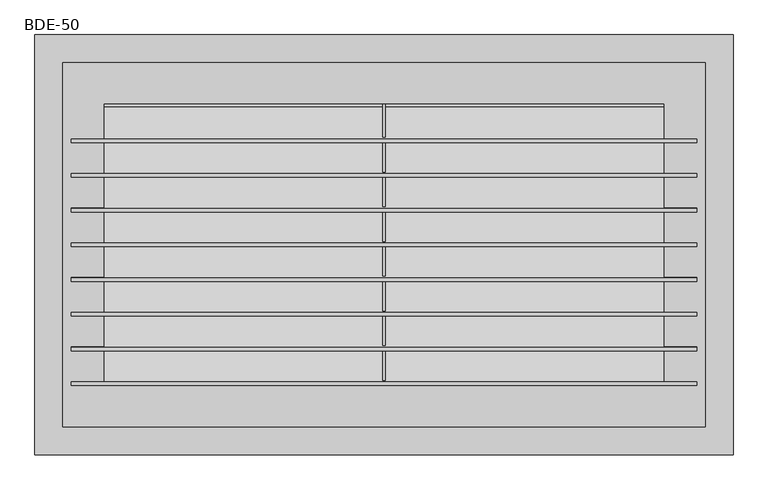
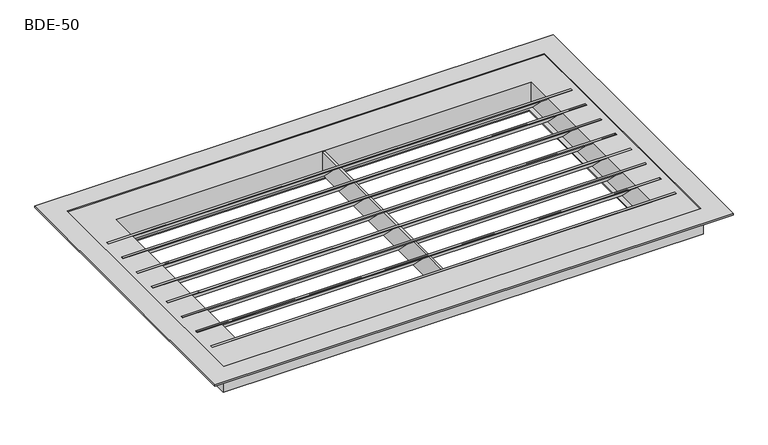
"""IFC4 building model written with IfcOpenShell, lengths in millimetres: air terminal geometry, NLRS_57_AIR_FB_Stalen-roosterdeuren BDE_SMA : BDE-50."""

import ifcopenshell
import ifcopenshell.guid

model = None  # the IFC model being written
_history = None  # IfcOwnerHistory: only IFC2X3 demands one
_inside = {}  # id of a spatial element -> (the spatial element, [elements in it])
_under = {}  # id of a project, library or spatial element -> (it, [spatial elements below it])
_declared = {}  # id of a project -> (the project, [libraries it declares])
_typed = {}  # id of a type object -> (the type object, [elements of that type])
_made_of = {}  # id of a material, layer set ... -> (it, [elements and type objects made of it])


def new_model(schema):
    """Start an empty IFC model of exactly this schema.

    Asked for "IFC4X3", IfcOpenShell would pick the latest addendum, in which some entities
    have other attributes; the version numbers below select the first issue.
    IFC2X3 requires an IfcOwnerHistory on every rooted entity: one is made here for all.
    """
    global model, _history
    if schema == "IFC4X3":
        model = ifcopenshell.file(schema_version=(4, 3, 0, 0))
    else:
        model = ifcopenshell.file(schema=schema)
    _inside.clear()
    _under.clear()
    _declared.clear()
    _typed.clear()
    _made_of.clear()
    _history = None
    if model.schema == "IFC2X3":
        org = make("IfcOrganization", Name="unknown")
        user = make(
            "IfcPersonAndOrganization",
            ThePerson=make("IfcPerson", FamilyName="unknown"),
            TheOrganization=org,
        )
        app = make(
            "IfcApplication",
            ApplicationDeveloper=org,
            Version="unknown",
            ApplicationFullName="unknown",
            ApplicationIdentifier="unknown",
        )
        _history = make(
            "IfcOwnerHistory",
            OwningUser=user,
            OwningApplication=app,
            ChangeAction="ADDED",
            CreationDate=0,
        )
    return model


def make(cls, **values):
    """One entity of the class cls with the attributes given. An attribute that is None is left unset."""
    return model.create_entity(
        cls, **{name: value for name, value in values.items() if value is not None}
    )


def rooted(cls, **values):
    """An entity with a GlobalId (a new one), such as an element, a storey or a relation."""
    return make(cls, GlobalId=ifcopenshell.guid.new(), OwnerHistory=_history, **values)


def si_unit(unit_type, name, prefix=None):
    """IfcSIUnit, for example si_unit("LENGTHUNIT", "METRE", prefix="MILLI")."""
    return make("IfcSIUnit", UnitType=unit_type, Prefix=prefix, Name=name)


def assignment(units):
    """IfcUnitAssignment: the units of a project."""
    return None if units is None else make("IfcUnitAssignment", Units=units)


def point(xyz):
    """IfcCartesianPoint."""
    return None if xyz is None else make("IfcCartesianPoint", Coordinates=xyz)


def direction(xyz):
    """IfcDirection."""
    return None if xyz is None else make("IfcDirection", DirectionRatios=xyz)


def frame(location, z_axis=None, x_axis=None):
    """IfcAxis2Placement3D, a coordinate frame: its origin and axes. An axis left out is left unset."""
    return make(
        "IfcAxis2Placement3D",
        Location=point(location),
        Axis=direction(z_axis),
        RefDirection=direction(x_axis),
    )


def origin():
    """The frame at (0, 0, 0) with its axes left unset."""
    return frame((0.0, 0.0, 0.0))


def place(relative_to, where):
    """IfcLocalPlacement: puts the frame where relative to a parent placement (None: the world)."""
    return make(
        "IfcLocalPlacement", PlacementRelTo=relative_to, RelativePlacement=where
    )


def context(
    kind, dimensions, precision=None, world=None, true_north=None, identifier=None
):
    """IfcGeometricRepresentationContext, for example the 3D "Model" context."""
    return make(
        "IfcGeometricRepresentationContext",
        ContextIdentifier=identifier,
        ContextType=kind,
        CoordinateSpaceDimension=dimensions,
        Precision=precision,
        WorldCoordinateSystem=world,
        TrueNorth=true_north,
    )


def project(units=None, contexts=None):
    """IfcProject with its units and contexts."""
    return rooted(
        "IfcProject",
        Name="project",
        RepresentationContexts=contexts,
        UnitsInContext=assignment(units),
    )


def spatial(cls, under=None, at=None, **own):
    """A site, building, storey or space (cls), placed at a placement, below another one or the project."""
    s = rooted(cls, ObjectPlacement=at, **own)
    if under is not None:
        _under.setdefault(under.id(), (under, []))[1].append(s)
    return s


def polyline(points):
    """IfcPolyline through the points."""
    return make("IfcPolyline", Points=[point(p) for p in points])


def outline(outer, holes=None, kind="AREA"):
    """IfcArbitraryClosedProfileDef: a profile drawn as a closed curve; with holes, ...WithVoids."""
    if holes is None:
        return make("IfcArbitraryClosedProfileDef", ProfileType=kind, OuterCurve=outer)
    return make(
        "IfcArbitraryProfileDefWithVoids",
        ProfileType=kind,
        OuterCurve=outer,
        InnerCurves=holes,
    )


def extrude(swept, where, along, depth):
    """IfcExtrudedAreaSolid: the profile swept, set in the frame where, extruded along a direction by depth."""
    return make(
        "IfcExtrudedAreaSolid",
        SweptArea=swept,
        Position=where,
        ExtrudedDirection=direction(along),
        Depth=depth,
    )


def faces_of(points, faces, orient=None, outer=None):
    """IfcFace entities. A face is a list of loops; a loop is a list of indices into points, from 0.

    orient and outer hold one flag for each loop. By default every Orientation is true, the
    first loop of a face is its IfcFaceOuterBound and the others are IfcFaceBound.
    """
    made = []
    for i, loops in enumerate(faces):
        bounds = []
        for j, loop in enumerate(loops):
            is_outer = j == 0 if outer is None else outer[i][j]
            bounds.append(
                make(
                    "IfcFaceOuterBound" if is_outer else "IfcFaceBound",
                    Bound=make("IfcPolyLoop", Polygon=[points[k] for k in loop]),
                    Orientation=True if orient is None else orient[i][j],
                )
            )
        made.append(make("IfcFace", Bounds=bounds))
    return made


def faceted_brep(points, faces, orient=None, outer=None, voids=None):
    """IfcFacetedBrep: a solid bounded by flat faces; with voids (closed shells), ...WithVoids."""
    shared = [point(p) for p in points]
    hull = make("IfcClosedShell", CfsFaces=faces_of(shared, faces, orient, outer))
    if voids is None:
        return make("IfcFacetedBrep", Outer=hull)
    return make(
        "IfcFacetedBrepWithVoids",
        Outer=hull,
        Voids=[
            make(cls, CfsFaces=faces_of(shared, fs, o, b)) for cls, fs, o, b in voids
        ],
    )


def shape(context_of_items, identifier, shape_type, items):
    """IfcShapeRepresentation: the items that make up one representation, for example the "Body"."""
    return make(
        "IfcShapeRepresentation",
        ContextOfItems=context_of_items,
        RepresentationIdentifier=identifier,
        RepresentationType=shape_type,
        Items=items,
    )


def source(mapping_origin, context_of_items, identifier, shape_type, items):
    """IfcRepresentationMap: a shape defined once, which mapped items show again and again."""
    return make(
        "IfcRepresentationMap",
        MappingOrigin=mapping_origin,
        MappedRepresentation=shape(context_of_items, identifier, shape_type, items),
    )


def transform(
    local_origin,
    x_axis=None,
    y_axis=None,
    z_axis=None,
    scale=None,
    scale2=None,
    scale3=None,
    uniform=True,
):
    """IfcCartesianTransformationOperator3D, or its non-uniform kind. x_axis, y_axis, z_axis: its Axis1, 2, 3."""
    if uniform:
        return make(
            "IfcCartesianTransformationOperator3D",
            Axis1=direction(x_axis),
            Axis2=direction(y_axis),
            LocalOrigin=point(local_origin),
            Scale=scale,
            Axis3=direction(z_axis),
        )
    return make(
        "IfcCartesianTransformationOperator3DnonUniform",
        Axis1=direction(x_axis),
        Axis2=direction(y_axis),
        LocalOrigin=point(local_origin),
        Scale=scale,
        Axis3=direction(z_axis),
        Scale2=scale2,
        Scale3=scale3,
    )


def mapped(mapping_source, mapping_target):
    """IfcMappedItem: shows the shape of a source again, moved by a transform."""
    return make(
        "IfcMappedItem", MappingSource=mapping_source, MappingTarget=mapping_target
    )


def made_of(thing, what):
    """Note that an element or type object is made of a material, layer set ...; save() writes the relation."""
    if what is not None:
        _made_of.setdefault(what.id(), (what, []))[1].append(thing)
    return thing


def element(
    cls,
    number,
    at=None,
    inside=None,
    cuts=None,
    type_object=None,
    material=None,
    context=None,
    identifier="Body",
    shape_type=None,
    held_by="IfcProductDefinitionShape",
    body=None,
    shapes=None,
    **own,
):
    """One element of the class cls, such as IfcWall. Its Tag is "e" and its number.

    at: its placement. inside: the storey or other place that contains it. cuts: it is an
    opening in that element (IfcRelVoidsElement). A single representation is given by context,
    identifier, shape_type and body (its items); several are given by shapes. held_by: the class
    of the entity that holds the representations. save() writes the other relations.
    """
    e = rooted(cls, Tag="e%d" % number, ObjectPlacement=at, **own)
    if body is not None:
        shapes = [shape(context, identifier, shape_type, body)]
    if shapes is not None:
        e.Representation = make(held_by, Representations=shapes)
    if inside is not None:
        _inside.setdefault(inside.id(), (inside, []))[1].append(e)
    if cuts is not None:
        rooted(
            "IfcRelVoidsElement", RelatingBuildingElement=cuts, RelatedOpeningElement=e
        )
    if type_object is not None:
        _typed.setdefault(type_object.id(), (type_object, []))[1].append(e)
    return made_of(e, material)


def aggregate(whole, parts):
    """IfcRelAggregates: a whole, such as a stair, and the parts it consists of."""
    return rooted("IfcRelAggregates", RelatingObject=whole, RelatedObjects=parts)


def save(model, path):
    """Write the relations noted so far, then the file.

    IfcRelAggregates (storeys below a building ...), IfcRelContainedInSpatialStructure (elements
    in a storey), IfcRelDefinesByType, IfcRelAssociatesMaterial and IfcRelDeclares: one each for
    every whole, place, type object, material and project.
    """
    for whole, parts in _under.values():
        aggregate(whole, parts)
    for where, things in _inside.values():
        rooted(
            "IfcRelContainedInSpatialStructure",
            RelatedElements=things,
            RelatingStructure=where,
        )
    for kind, things in _typed.values():
        rooted("IfcRelDefinesByType", RelatedObjects=things, RelatingType=kind)
    for what, things in _made_of.values():
        rooted("IfcRelAssociatesMaterial", RelatedObjects=things, RelatingMaterial=what)
    for by, libraries in _declared.values():
        rooted("IfcRelDeclares", RelatingContext=by, RelatedDefinitions=libraries)
    model.write(path)


def bde_50_40d87701(model_context):
    return source(origin(), model_context, "Body", "SolidModel", [
        extrude(outline(polyline([(147.5, 1.5428063), (152.5, 1.5428063), (199.0257471, -44.9829408), (207.500244, -44.9829408), (207.500244, -46.4571937), (197.5, -46.4571937), (150.999511, 0.0432953), (147.5, 0.0432953), (147.5, 1.5428063)])), frame((-450.0, 0.0, 0.0), z_axis=(1.0, 0.0, 0.0), x_axis=(0.0, 1.0, 0.0)), (0.0, 0.0, 1.0), 900.0),
        extrude(outline(polyline([(97.5, 1.5428063), (102.5, 1.5428063), (149.0257471, -44.9829408), (157.500244, -44.9829408), (157.500244, -46.4571937), (147.5, -46.4571937), (100.999511, 0.0432953), (97.5, 0.0432953), (97.5, 1.5428063)])), frame((-450.0, 0.0, 0.0), z_axis=(1.0, 0.0, 0.0), x_axis=(0.0, 1.0, 0.0)), (0.0, 0.0, 1.0), 900.0),
        extrude(outline(polyline([(47.5, 1.5428063), (52.5, 1.5428063), (99.0257471, -44.9829408), (107.500244, -44.9829408), (107.500244, -46.4571937), (97.5, -46.4571937), (50.999511, 0.0432953), (47.5, 0.0432953), (47.5, 1.5428063)])), frame((-450.0, 0.0, 0.0), z_axis=(1.0, 0.0, 0.0), x_axis=(0.0, 1.0, 0.0)), (0.0, 0.0, 1.0), 900.0),
        extrude(outline(polyline([(-2.5, 1.5428063), (2.5, 1.5428063), (49.0257471, -44.9829408), (57.500244, -44.9829408), (57.500244, -46.4571937), (47.5, -46.4571937), (0.999511, 0.0432953), (-2.5, 0.0432953), (-2.5, 1.5428063)])), frame((-450.0, 0.0, 0.0), z_axis=(1.0, 0.0, 0.0), x_axis=(0.0, 1.0, 0.0)), (0.0, 0.0, 1.0), 900.0),
        extrude(outline(polyline([(-52.5, 1.5428063), (-47.5, 1.5428063), (-0.9742529, -44.9829408), (7.500244, -44.9829408), (7.500244, -46.4571937), (-2.5, -46.4571937), (-49.000489, 0.0432953), (-52.5, 0.0432953), (-52.5, 1.5428063)])), frame((-450.0, 0.0, 0.0), z_axis=(1.0, 0.0, 0.0), x_axis=(0.0, 1.0, 0.0)), (0.0, 0.0, 1.0), 900.0),
        extrude(outline(polyline([(-102.5, 1.5428063), (-97.5, 1.5428063), (-50.9742529, -44.9829408), (-42.499756, -44.9829408), (-42.499756, -46.4571937), (-52.5, -46.4571937), (-99.000489, 0.0432953), (-102.5, 0.0432953), (-102.5, 1.5428063)])), frame((-450.0, 0.0, 0.0), z_axis=(1.0, 0.0, 0.0), x_axis=(0.0, 1.0, 0.0)), (0.0, 0.0, 1.0), 900.0),
        extrude(outline(polyline([(-152.5, 1.5428063), (-147.5, 1.5428063), (-100.9742529, -44.9829408), (-92.499756, -44.9829408), (-92.499756, -46.4571937), (-102.5, -46.4571937), (-149.000489, 0.0432953), (-152.5, 0.0432953), (-152.5, 1.5428063)])), frame((-450.0, 0.0, 0.0), z_axis=(1.0, 0.0, 0.0), x_axis=(0.0, 1.0, 0.0)), (0.0, 0.0, 1.0), 900.0),
        extrude(outline(polyline([(-202.5, 1.5428063), (-197.5, 1.5428063), (-150.9742529, -44.9829408), (-142.499756, -44.9829408), (-142.499756, -46.4571937), (-152.5, -46.4571937), (-199.000489, 0.0432953), (-202.5, 0.0432953), (-202.5, 1.5428063)])), frame((-450.0, 0.0, 0.0), z_axis=(1.0, 0.0, 0.0), x_axis=(0.0, 1.0, 0.0)), (0.0, 0.0, 1.0), 900.0),
        extrude(outline(polyline([(2.0, 202.5), (2.0, -202.5), (-2.0, -202.5), (-2.0, 202.5), (2.0, 202.5)])), frame((0.0, 0.0, -48.0), z_axis=(0.0, 0.0, 1.0), x_axis=(1.0, 0.0, 0.0)), (0.0, 0.0, 1.0), 48.0),
        faceted_brep([(502.5, 302.5, 0.0), (502.5, 302.5, 3.0), (502.5, -302.5, 3.0), (502.5, -302.5, 0.0), (465.5, 265.5, -48.0), (465.5, 265.5, 0.0), (465.5, -265.5, 0.0), (465.5, -265.5, -48.0), (462.5, 262.5, 3.0), (462.5, 262.5, -48.0), (462.5, -262.5, -48.0), (462.5, -262.5, 3.0), (-502.5, -302.5, 3.0), (-502.5, -302.5, 0.0), (-465.5, -265.5, 0.0), (-465.5, -265.5, -48.0), (-462.5, -262.5, -48.0), (-462.5, -262.5, 3.0), (-502.5, 302.5, 3.0), (-502.5, 302.5, 0.0), (-465.5, 265.5, 0.0), (-465.5, 265.5, -48.0), (-462.5, 262.5, -48.0), (-462.5, 262.5, 3.0)], [[[0, 1, 2, 3]], [[4, 5, 6, 7]], [[8, 9, 10, 11]], [[3, 2, 12, 13]], [[7, 6, 14, 15]], [[11, 10, 16, 17]], [[13, 12, 18, 19]], [[15, 14, 20, 21]], [[17, 16, 22, 23]], [[1, 18, 12, 2], [11, 17, 23, 8]], [[19, 18, 1, 0]], [[3, 13, 19, 0], [5, 20, 14, 6]], [[21, 20, 5, 4]], [[7, 15, 21, 4], [9, 22, 16, 10]], [[23, 22, 9, 8]]]),
        faceted_brep([(-402.5, 202.5, -46.5), (-402.5, 202.5, 1.5428063), (-402.5, -202.5, 1.5428063), (-402.5, -202.5, -46.5), (-392.5, 192.5, -48.0), (-392.5, 192.5, -46.5), (-392.5, -192.5, -46.5), (-392.5, -192.5, -48.0), (-404.0, 204.0, 0.0), (-404.0, 204.0, -48.0), (-404.0, -204.0, -48.0), (-404.0, -204.0, 0.0), (-462.5, 262.5, 1.5428063), (-462.5, 262.5, 0.0), (-462.5, -262.5, 0.0), (-462.5, -262.5, 1.5428063), (402.5, -202.5, 1.5428063), (402.5, -202.5, -46.5), (392.5, -192.5, -46.5), (392.5, -192.5, -48.0), (404.0, -204.0, -48.0), (404.0, -204.0, 0.0), (462.5, -262.5, 0.0), (462.5, -262.5, 1.5428063), (402.5, 202.5, 1.5428063), (402.5, 202.5, -46.5), (392.5, 192.5, -46.5), (392.5, 192.5, -48.0), (404.0, 204.0, -48.0), (404.0, 204.0, 0.0), (462.5, 262.5, 0.0), (462.5, 262.5, 1.5428063)], [[[0, 1, 2, 3]], [[4, 5, 6, 7]], [[8, 9, 10, 11]], [[12, 13, 14, 15]], [[3, 2, 16, 17]], [[7, 6, 18, 19]], [[11, 10, 20, 21]], [[15, 14, 22, 23]], [[17, 16, 24, 25]], [[19, 18, 26, 27]], [[21, 20, 28, 29]], [[23, 22, 30, 31]], [[15, 23, 31, 12], [1, 24, 16, 2]], [[25, 24, 1, 0]], [[3, 17, 25, 0], [5, 26, 18, 6]], [[27, 26, 5, 4]], [[9, 28, 20, 10], [7, 19, 27, 4]], [[29, 28, 9, 8]], [[13, 30, 22, 14], [11, 21, 29, 8]], [[31, 30, 13, 12]]]),
    ])


if __name__ == "__main__":
    model = new_model("IFC4")
    model_context = context("Model", 3, world=origin())
    ifc_project = project(units=[si_unit("LENGTHUNIT", "METRE", prefix="MILLI")], contexts=[model_context])
    site = spatial("IfcSite", under=ifc_project)
    building = spatial("IfcBuilding", under=site)
    placement = place(None, origin())
    bde_50_shape = bde_50_40d87701(model_context)
    element("IfcAirTerminal", 1, ObjectType="NLRS_57_AIR_FB_Stalen-roosterdeuren BDE_SMA : BDE-50", at=placement, inside=building, context=model_context, shape_type="MappedRepresentation", body=[
        mapped(bde_50_shape, transform((0.0, 0.0, 0.0), x_axis=(1.0, 0.0, 0.0), y_axis=(0.0, 1.0, 0.0), z_axis=(0.0, 0.0, 1.0))),
    ])
    save(model, "model.ifc")
